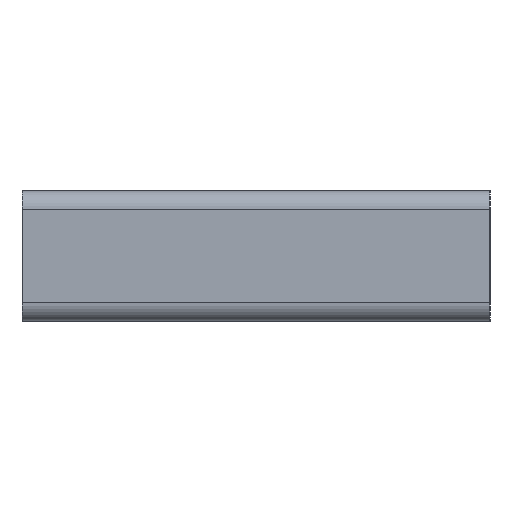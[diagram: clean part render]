
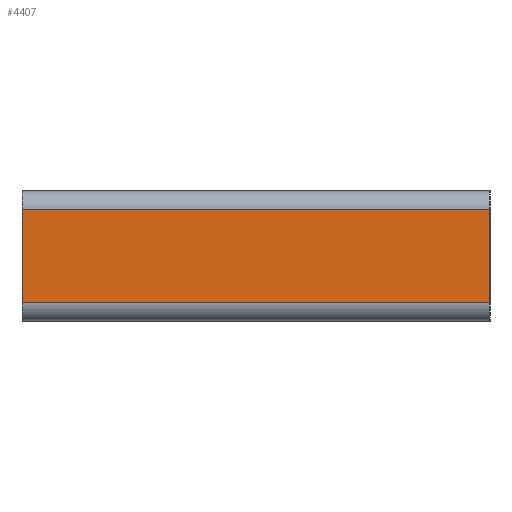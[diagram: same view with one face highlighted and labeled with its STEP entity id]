
A CAD part, left-side view. The second image highlights one B-rep face of the part: STEP entity #4407.
In plain terms, the highlighted planar face has unit normal (-1, 0, 0).
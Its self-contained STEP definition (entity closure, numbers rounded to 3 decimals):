
#41 = ORIENTED_EDGE ( 'NONE', *, *, #2635, .T. ) ;
#56 = EDGE_CURVE ( 'NONE', #761, #4282, #2055, .T. ) ;
#280 = ORIENTED_EDGE ( 'NONE', *, *, #290, .T. ) ;
#290 = EDGE_CURVE ( 'NONE', #668, #1301, #2129, .T. ) ;
#337 = DIRECTION ( 'NONE',  ( 0., -1., 0. ) ) ;
#441 = EDGE_LOOP ( 'NONE', ( #280, #3703, #4506, #41 ) ) ;
#652 = VECTOR ( 'NONE', #337, 1000. ) ;
#668 = VERTEX_POINT ( 'NONE', #2150 ) ;
#748 = CARTESIAN_POINT ( 'NONE',  ( -80., 50., -10. ) ) ;
#761 = VERTEX_POINT ( 'NONE', #748 ) ;
#765 = LINE ( 'NONE', #830, #1001 ) ;
#830 = CARTESIAN_POINT ( 'NONE',  ( -80., 50., 10. ) ) ;
#924 = VECTOR ( 'NONE', #4227, 1000. ) ;
#1001 = VECTOR ( 'NONE', #3754, 1000. ) ;
#1085 = PLANE ( 'NONE',  #2980 ) ;
#1301 = VERTEX_POINT ( 'NONE', #4198 ) ;
#1344 = CARTESIAN_POINT ( 'NONE',  ( -80., 50., 10. ) ) ;
#1453 = VECTOR ( 'NONE', #2916, 1000. ) ;
#1536 = FACE_OUTER_BOUND ( 'NONE', #441, .T. ) ;
#2055 = LINE ( 'NONE', #3515, #924 ) ;
#2111 = CARTESIAN_POINT ( 'NONE',  ( -80., 50., -10. ) ) ;
#2129 = LINE ( 'NONE', #3590, #1453 ) ;
#2150 = CARTESIAN_POINT ( 'NONE',  ( -80., -50., -10. ) ) ;
#2197 = DIRECTION ( 'NONE',  ( 0., 0., -1. ) ) ;
#2635 = EDGE_CURVE ( 'NONE', #761, #668, #3955, .T. ) ;
#2916 = DIRECTION ( 'NONE',  ( 0., 0., 1. ) ) ;
#2980 = AXIS2_PLACEMENT_3D ( 'NONE', #4047, #3656, #2197 ) ;
#3515 = CARTESIAN_POINT ( 'NONE',  ( -80., 50., -10. ) ) ;
#3590 = CARTESIAN_POINT ( 'NONE',  ( -80., -50., -10. ) ) ;
#3656 = DIRECTION ( 'NONE',  ( 1., 0., 0. ) ) ;
#3697 = EDGE_CURVE ( 'NONE', #4282, #1301, #765, .T. ) ;
#3703 = ORIENTED_EDGE ( 'NONE', *, *, #3697, .F. ) ;
#3754 = DIRECTION ( 'NONE',  ( 0., -1., 0. ) ) ;
#3955 = LINE ( 'NONE', #2111, #652 ) ;
#4047 = CARTESIAN_POINT ( 'NONE',  ( -80., 50., -10. ) ) ;
#4198 = CARTESIAN_POINT ( 'NONE',  ( -80., -50., 10. ) ) ;
#4227 = DIRECTION ( 'NONE',  ( 0., 0., 1. ) ) ;
#4282 = VERTEX_POINT ( 'NONE', #1344 ) ;
#4407 = ADVANCED_FACE ( 'NONE', ( #1536 ), #1085, .F. ) ;
#4506 = ORIENTED_EDGE ( 'NONE', *, *, #56, .F. ) ;
